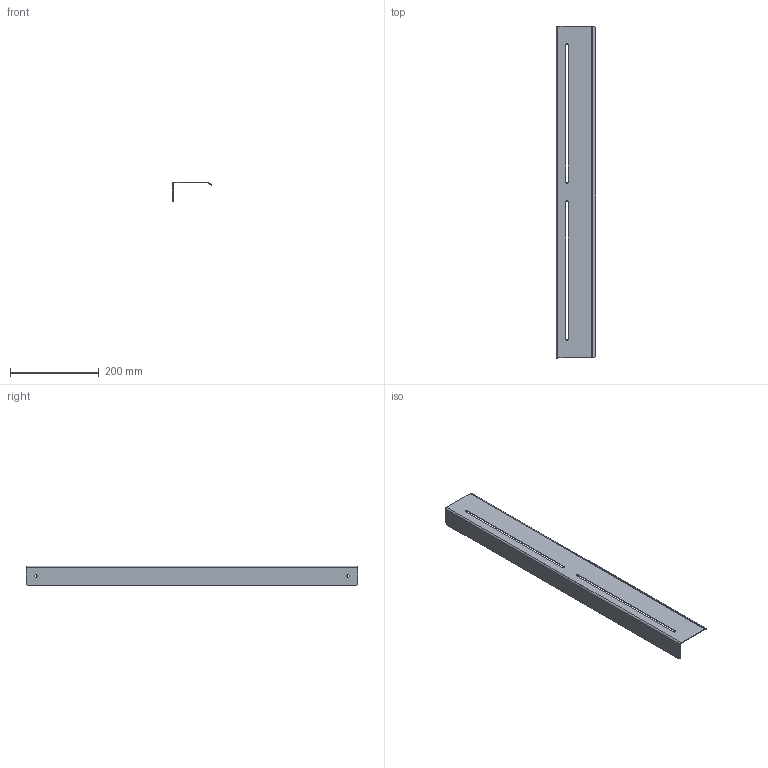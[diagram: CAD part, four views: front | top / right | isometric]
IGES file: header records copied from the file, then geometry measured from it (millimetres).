
Start section: IGES file generated by C3D Converter 1.5 translator by C3D Labs., translator version IGESOUT-5.1.
Global section: file name: D:\×åðòåæè èçäåëèé Âàííà 2023\Ïîëêè Simple Íîâûå\3D\×åðòåæè 22.07.2023\3D\S²MPLE_2_750.igs; preprocessor: 1.0; author: a.kalenyk83@gmail.com; organization: unknown; date: -17770622:112732; units: millimetre
Bounding box: 88.5 x 750 x 45 mm (x, y, z)
Volume: 143840.4 mm3; surface area: 196376.8 mm2
Topology: 1 solids, 1 shells, 38 faces, 92 edges, 56 vertices
Faces by surface type: bspline 22, revolution 16
